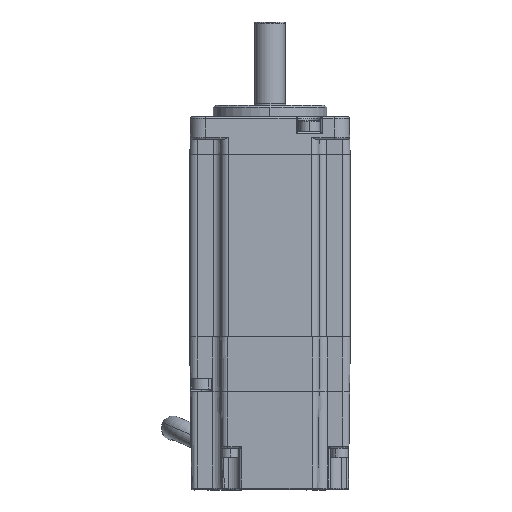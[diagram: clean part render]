
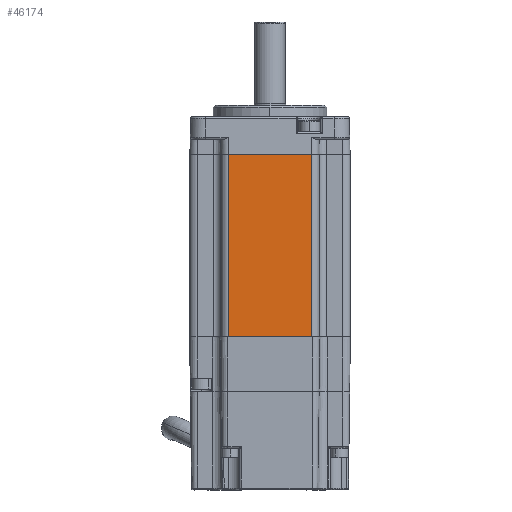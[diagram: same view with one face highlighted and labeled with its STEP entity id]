
A CAD part, front view. The second image highlights one B-rep face of the part: STEP entity #46174.
In plain terms, the highlighted planar face has unit normal (0, -1, 0).
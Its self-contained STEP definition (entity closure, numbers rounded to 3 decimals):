
#5801 = AXIS2_PLACEMENT_3D ( 'NONE', #56788, #56799, #56800 ) ;
#19241 = VERTEX_POINT ( 'NONE', #51623 ) ;
#19477 = VERTEX_POINT ( 'NONE', #51711 ) ;
#19540 = VERTEX_POINT ( 'NONE', #51735 ) ;
#19667 = VERTEX_POINT ( 'NONE', #51786 ) ;
#30530 = ORIENTED_EDGE ( 'NONE', *, *, #64428, .F. ) ;
#30531 = ORIENTED_EDGE ( 'NONE', *, *, #64429, .F. ) ;
#30532 = ORIENTED_EDGE ( 'NONE', *, *, #64425, .T. ) ;
#30533 = ORIENTED_EDGE ( 'NONE', *, *, #64390, .T. ) ;
#42713 = EDGE_LOOP ( 'NONE', ( #30530, #30531, #30532, #30533 ) ) ;
#44526 = VECTOR ( 'NONE', #46513, 1000. ) ;
#44620 = VECTOR ( 'NONE', #46653, 1000. ) ;
#44628 = VECTOR ( 'NONE', #46675, 1000. ) ;
#44632 = VECTOR ( 'NONE', #46681, 1000. ) ;
#46174 = ADVANCED_FACE ( 'NONE', ( #56795 ), #56796, .T. ) ;
#46504 = CARTESIAN_POINT ( 'NONE',  ( 21.935, -26.389, 24.911 ) ) ;
#46505 = LINE ( 'NONE', #46504, #44526 ) ;
#46513 = DIRECTION ( 'NONE',  ( -1., 0., 0. ) ) ;
#46649 = LINE ( 'NONE', #46651, #44620 ) ;
#46651 = CARTESIAN_POINT ( 'NONE',  ( 19.935, -26.389, 15.411 ) ) ;
#46653 = DIRECTION ( 'NONE',  ( 0., 0., 1. ) ) ;
#46656 = LINE ( 'NONE', #46658, #44628 ) ;
#46658 = CARTESIAN_POINT ( 'NONE',  ( -2.065, -26.389, 15.411 ) ) ;
#46675 = DIRECTION ( 'NONE',  ( 0., 0., 1. ) ) ;
#46676 = LINE ( 'NONE', #46679, #44632 ) ;
#46679 = CARTESIAN_POINT ( 'NONE',  ( 8.935, -26.389, -23.189 ) ) ;
#46681 = DIRECTION ( 'NONE',  ( -1., 0., 0. ) ) ;
#51623 = CARTESIAN_POINT ( 'NONE',  ( -2.065, -26.389, -23.189 ) ) ;
#51711 = CARTESIAN_POINT ( 'NONE',  ( 19.935, -26.389, -23.189 ) ) ;
#51735 = CARTESIAN_POINT ( 'NONE',  ( 19.935, -26.389, 24.911 ) ) ;
#51786 = CARTESIAN_POINT ( 'NONE',  ( -2.065, -26.389, 24.911 ) ) ;
#56788 = CARTESIAN_POINT ( 'NONE',  ( 21.935, -26.389, 15.411 ) ) ;
#56795 = FACE_OUTER_BOUND ( 'NONE', #42713, .T. ) ;
#56796 = PLANE ( 'NONE',  #5801 ) ;
#56799 = DIRECTION ( 'NONE',  ( 0., -1., 0. ) ) ;
#56800 = DIRECTION ( 'NONE',  ( 0., 0., 1. ) ) ;
#64390 = EDGE_CURVE ( 'NONE', #19540, #19667, #46505, .T. ) ;
#64425 = EDGE_CURVE ( 'NONE', #19477, #19540, #46649, .T. ) ;
#64428 = EDGE_CURVE ( 'NONE', #19241, #19667, #46656, .T. ) ;
#64429 = EDGE_CURVE ( 'NONE', #19477, #19241, #46676, .T. ) ;
